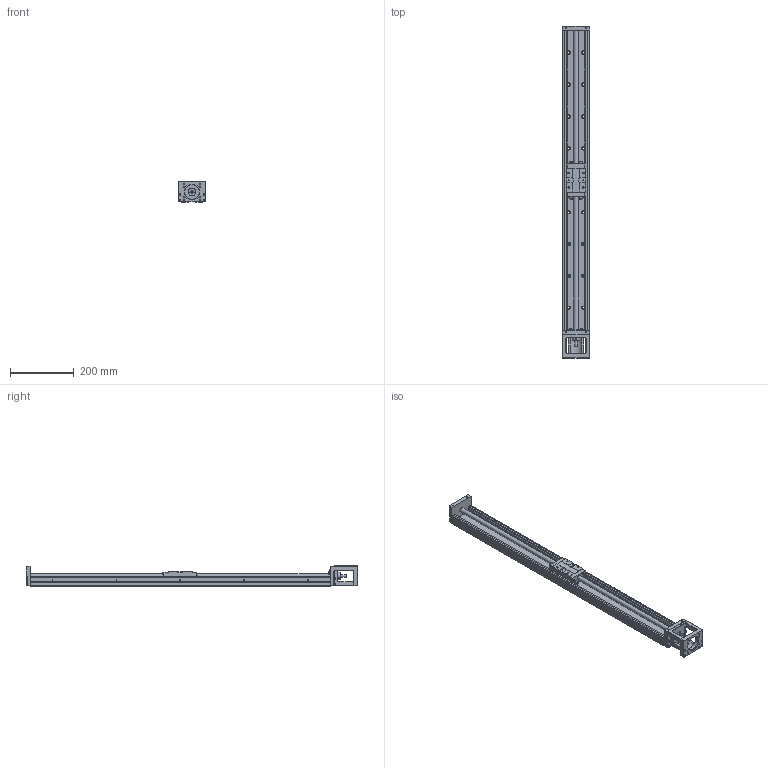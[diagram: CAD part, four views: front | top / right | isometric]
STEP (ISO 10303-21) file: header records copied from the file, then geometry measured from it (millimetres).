
FILE_DESCRIPTION(/* description */ (''),/* implementation_level */ '2;1');
FILE_NAME(/* name */ 'FKL80E940 05(10.16)C7.stp',/* time_stamp */ '2018-12-26T09:48:12+08:00',/* author */ (''),/* organization */ (''),/* preprocessor_version */ 'ST-DEVELOPER v16',/* originating_system */ 'SIEMENS PLM Software NX 10.0',/* authorisation */ '');
FILE_SCHEMA (('AUTOMOTIVE_DESIGN { 1 0 10303 214 3 1 1 1 }'));
Length unit declared in the file: millimetre
Products named in the file (3): 滑块.KK86-A1; 轨道.KK86-940; FKL80E940 05(10.16)C7
Assembly tree (2 placements, depth 2):
  FKL80E940 05(10.16)C7
    轨道.KK86-940
    滑块.KK86-A1
Bounding box: 86 x 1040 x 64 mm (x, y, z)
Volume: 1782110.5 mm3; surface area: 391278.2 mm2
Topology: 2 solids, 2 shells, 542 faces, 1390 edges, 913 vertices
Faces by surface type: plane 311, cylinder 185, torus 20, cone 17, sphere 9
Full cylindrical faces by diameter (mm): 2.05 x10, 2.15 x2, 3.3 x9, 4.2 x4, 4.5 x4, 5 x4, 5.5 x4, 6.5 x2, 6.6 x18, 7.5 x8, 8 x5, 8.5 x8, 11 x18, 15 x2, 19 x1, 46 x1, 50 x1
Entity records: 15664 total; most frequent: CARTESIAN_POINT 2759, DIRECTION 2647, ORIENTED_EDGE 2350, EDGE_CURVE 1175, AXIS2_PLACEMENT_3D 958, VERTEX_POINT 825, EDGE_LOOP 784, LINE 731
